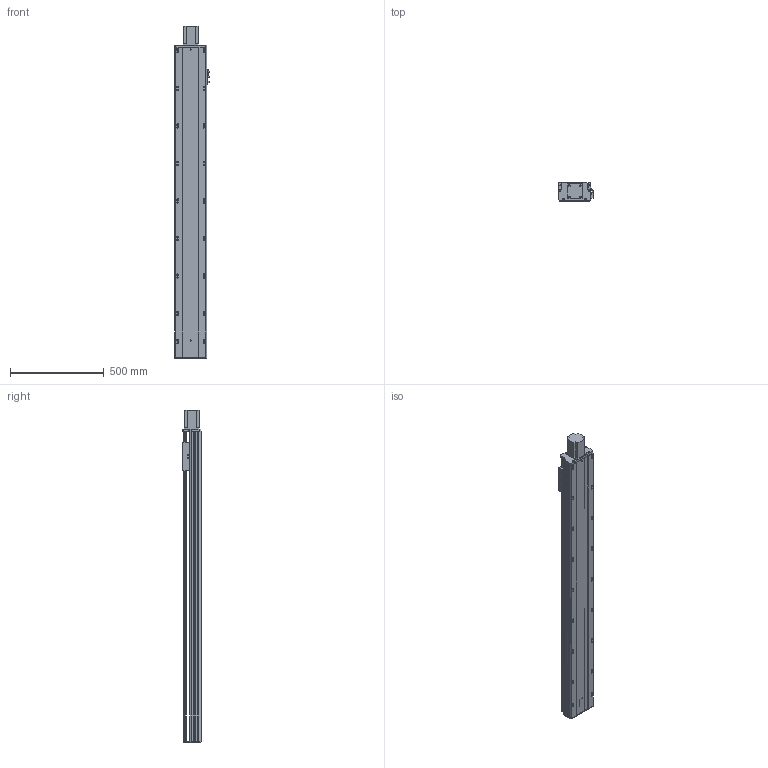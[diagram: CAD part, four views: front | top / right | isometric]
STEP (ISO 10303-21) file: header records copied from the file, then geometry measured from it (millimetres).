
FILE_DESCRIPTION (( 'STEP AP203' ), '1' );
FILE_NAME ('Y170-D10-S1400-BD-P750W.STEP', '2020-01-22T07:14:54', ( '微软用户' ), ( '微软中国' ), 'SwSTEP 2.0', 'SolidWorks 2017', '' );
FILE_SCHEMA (( 'CONFIG_CONTROL_DESIGN' ));
Length unit declared in the file: millimetre
Products named in the file (10): 170--掛极-BD; Y170-萇儂楊擘啣--; 135-盓傅釱-FK15; 侂狟750W; Y170耜裔--準---; Y170-陔遴奻裔-BD; Y170--雄赽釱-梓--; YD-Y100-135-新外置传感挡片(通用）; Y170-D10-S1400-BD-P750W; Y100-135俋离換覜ん
Assembly tree (11 placements, depth 2):
  Y170-D10-S1400-BD-P750W
    YD-Y100-135-新外置传感挡片(通用）
    Y100-135俋离換覜ん  x3
    170--掛极-BD
    Y170-萇儂楊擘啣--
    135-盓傅釱-FK15
    侂狟750W
    Y170耜裔--準---
    Y170-陔遴奻裔-BD
    Y170--雄赽釱-梓--
Bounding box: 183.5 x 97 x 1768.5 mm (x, y, z)
Volume: 7337636.5 mm3; surface area: 2531812.4 mm2
Topology: 11 solids, 11 shells, 852 faces, 2451 edges, 1624 vertices
Faces by surface type: cylinder 462, plane 388, torus 2
Entity records: 28111 total; most frequent: CARTESIAN_POINT 5147, DIRECTION 4665, ORIENTED_EDGE 4566, EDGE_CURVE 2283, AXIS2_PLACEMENT_3D 1686, VERTEX_POINT 1512, LINE 1293, VECTOR 1293
